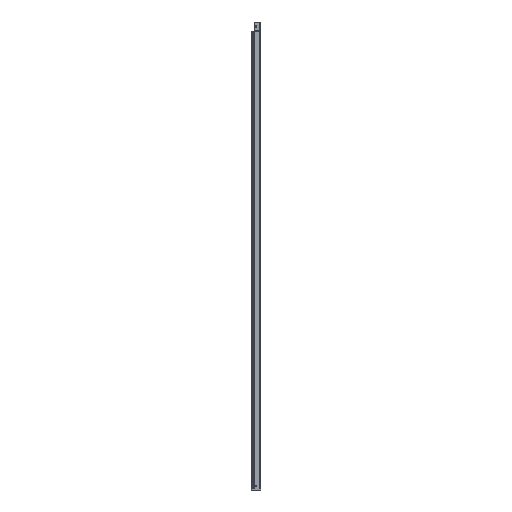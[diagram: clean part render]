
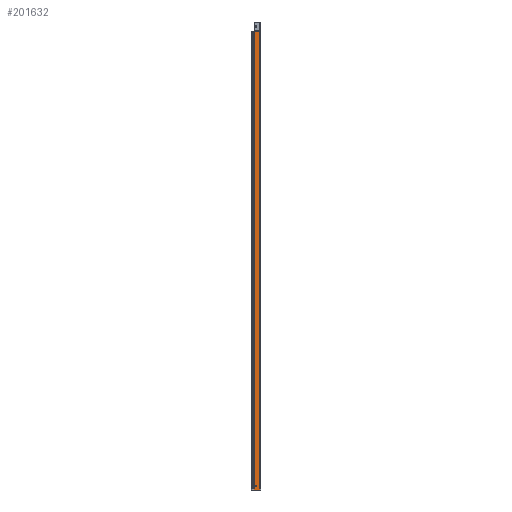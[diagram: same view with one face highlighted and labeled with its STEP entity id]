
A CAD part, left-side view. The second image highlights one B-rep face of the part: STEP entity #201632.
In plain terms, the highlighted planar face has unit normal (-1, 0, 0).
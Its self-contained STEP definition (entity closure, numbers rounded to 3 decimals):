
#2315 = CARTESIAN_POINT ( 'NONE',  ( -50., 41.544, 0. ) ) ;
#3443 = DIRECTION ( 'NONE',  ( 0., -1., 0. ) ) ;
#10042 = FACE_BOUND ( 'NONE', #266030, .T. ) ;
#17069 = ORIENTED_EDGE ( 'NONE', *, *, #149380, .T. ) ;
#23266 = CARTESIAN_POINT ( 'NONE',  ( -50., 34.307, -2910.25 ) ) ;
#23801 = ORIENTED_EDGE ( 'NONE', *, *, #125714, .T. ) ;
#30185 = CARTESIAN_POINT ( 'NONE',  ( -50., 4.621, -2941.5 ) ) ;
#35821 = CARTESIAN_POINT ( 'NONE',  ( -50., 34.307, -2910.25 ) ) ;
#36853 = EDGE_CURVE ( 'NONE', #124373, #41488, #202972, .T. ) ;
#41488 = VERTEX_POINT ( 'NONE', #139357 ) ;
#47977 = DIRECTION ( 'NONE',  ( 0., 0., 1. ) ) ;
#55420 = LINE ( 'NONE', #257744, #80233 ) ;
#55645 = DIRECTION ( 'NONE',  ( 0., 0., -1. ) ) ;
#71249 = VECTOR ( 'NONE', #47977, 1000. ) ;
#78068 = LINE ( 'NONE', #79700, #150291 ) ;
#78292 = CARTESIAN_POINT ( 'NONE',  ( -50., 4.621, 0. ) ) ;
#78365 = EDGE_LOOP ( 'NONE', ( #140418, #168631, #248982, #23801 ) ) ;
#79700 = CARTESIAN_POINT ( 'NONE',  ( -50., 41.544, -2941.5 ) ) ;
#80233 = VECTOR ( 'NONE', #155764, 1000. ) ;
#109327 = CARTESIAN_POINT ( 'NONE',  ( -50., 41.544, 0. ) ) ;
#113935 = ORIENTED_EDGE ( 'NONE', *, *, #260766, .T. ) ;
#118283 = CARTESIAN_POINT ( 'NONE',  ( -50., 31., -2914. ) ) ;
#123648 = CARTESIAN_POINT ( 'NONE',  ( -50., 4.621, -2941.5 ) ) ;
#124373 = VERTEX_POINT ( 'NONE', #141782 ) ;
#125714 = EDGE_CURVE ( 'NONE', #41488, #273316, #273375, .T. ) ;
#127466 = DIRECTION ( 'NONE',  ( 0., 0., 1. ) ) ;
#136696 = DIRECTION ( 'NONE',  ( 0., 0., 1. ) ) ;
#137333 = EDGE_CURVE ( 'NONE', #185938, #288188, #148903, .T. ) ;
#139357 = CARTESIAN_POINT ( 'NONE',  ( -50., 4.621, -2941.5 ) ) ;
#140418 = ORIENTED_EDGE ( 'NONE', *, *, #147039, .F. ) ;
#141782 = CARTESIAN_POINT ( 'NONE',  ( -50., 41.544, -2941.5 ) ) ;
#144310 = CARTESIAN_POINT ( 'NONE',  ( -50., 27.693, -2910.25 ) ) ;
#144485 = EDGE_CURVE ( 'NONE', #231440, #185938, #228823, .T. ) ;
#147039 = EDGE_CURVE ( 'NONE', #208152, #273316, #268089, .T. ) ;
#148903 = CIRCLE ( 'NONE', #317092, 5. ) ;
#149380 = EDGE_CURVE ( 'NONE', #273422, #231440, #227354, .T. ) ;
#150291 = VECTOR ( 'NONE', #127466, 1000. ) ;
#151987 = DIRECTION ( 'NONE',  ( 0., -1., 0. ) ) ;
#152759 = DIRECTION ( 'NONE',  ( 1., 0., 0. ) ) ;
#154576 = EDGE_CURVE ( 'NONE', #124373, #208152, #78068, .T. ) ;
#155472 = CARTESIAN_POINT ( 'NONE',  ( -50., 16.929, 0. ) ) ;
#155764 = DIRECTION ( 'NONE',  ( 0., 1., 0. ) ) ;
#161720 = AXIS2_PLACEMENT_3D ( 'NONE', #186055, #189295, #136696 ) ;
#168631 = ORIENTED_EDGE ( 'NONE', *, *, #154576, .F. ) ;
#169233 = DIRECTION ( 'NONE',  ( 0., 0., -1. ) ) ;
#172174 = CARTESIAN_POINT ( 'NONE',  ( -50., 34.307, -2917.75 ) ) ;
#174226 = ORIENTED_EDGE ( 'NONE', *, *, #137333, .T. ) ;
#180142 = CARTESIAN_POINT ( 'NONE',  ( -50., 4.621, 0. ) ) ;
#184432 = PLANE ( 'NONE',  #161720 ) ;
#185938 = VERTEX_POINT ( 'NONE', #144310 ) ;
#186055 = CARTESIAN_POINT ( 'NONE',  ( -50., 4.621, -2941.5 ) ) ;
#189295 = DIRECTION ( 'NONE',  ( -1., 0., 0. ) ) ;
#189355 = VECTOR ( 'NONE', #3443, 1000. ) ;
#190913 = FACE_OUTER_BOUND ( 'NONE', #78365, .T. ) ;
#201632 = ADVANCED_FACE ( 'NONE', ( #10042, #190913 ), #184432, .T. ) ;
#202972 = LINE ( 'NONE', #30185, #251362 ) ;
#208152 = VERTEX_POINT ( 'NONE', #2315 ) ;
#218625 = DIRECTION ( 'NONE',  ( 1., 0., 0. ) ) ;
#227354 = CIRCLE ( 'NONE', #274791, 5. ) ;
#228823 = LINE ( 'NONE', #23266, #189355 ) ;
#231440 = VERTEX_POINT ( 'NONE', #35821 ) ;
#235643 = ORIENTED_EDGE ( 'NONE', *, *, #144485, .T. ) ;
#248982 = ORIENTED_EDGE ( 'NONE', *, *, #36853, .T. ) ;
#251362 = VECTOR ( 'NONE', #151987, 1000. ) ;
#257744 = CARTESIAN_POINT ( 'NONE',  ( -50., 34.307, -2917.75 ) ) ;
#260766 = EDGE_CURVE ( 'NONE', #288188, #273422, #55420, .T. ) ;
#266030 = EDGE_LOOP ( 'NONE', ( #17069, #235643, #174226, #113935 ) ) ;
#268089 = B_SPLINE_CURVE_WITH_KNOTS ( 'NONE', 3,
 ( #109327, #305209, #155472, #180142 ),
 .UNSPECIFIED., .F., .F.,
 ( 4, 4 ),
 ( 0., 1. ),
 .UNSPECIFIED. ) ;
#273316 = VERTEX_POINT ( 'NONE', #78292 ) ;
#273375 = LINE ( 'NONE', #123648, #71249 ) ;
#273422 = VERTEX_POINT ( 'NONE', #172174 ) ;
#274791 = AXIS2_PLACEMENT_3D ( 'NONE', #118283, #218625, #169233 ) ;
#276200 = CARTESIAN_POINT ( 'NONE',  ( -50., 31., -2914. ) ) ;
#288188 = VERTEX_POINT ( 'NONE', #317756 ) ;
#305209 = CARTESIAN_POINT ( 'NONE',  ( -50., 29.237, 0. ) ) ;
#317092 = AXIS2_PLACEMENT_3D ( 'NONE', #276200, #152759, #55645 ) ;
#317756 = CARTESIAN_POINT ( 'NONE',  ( -50., 27.693, -2917.75 ) ) ;
